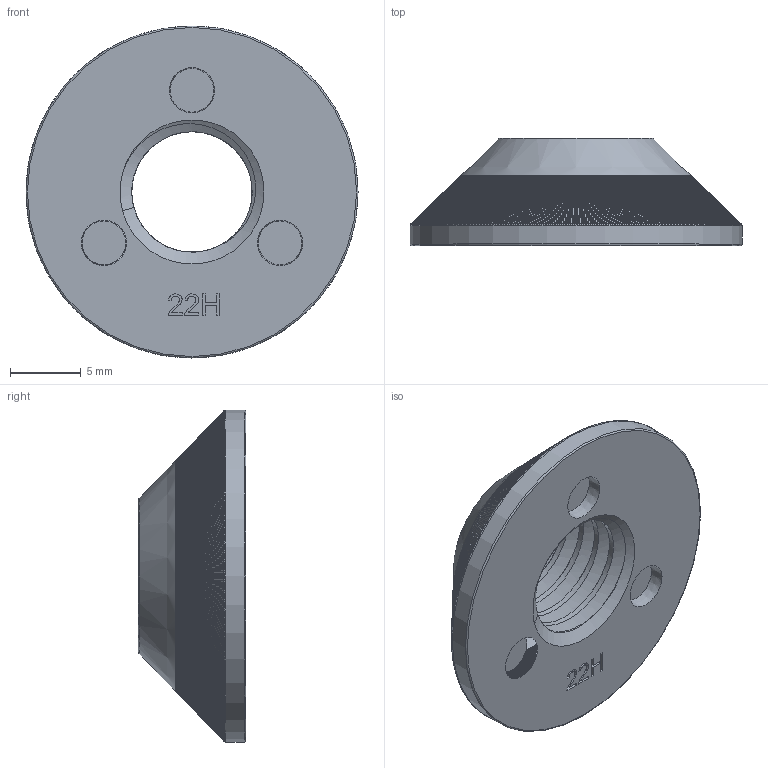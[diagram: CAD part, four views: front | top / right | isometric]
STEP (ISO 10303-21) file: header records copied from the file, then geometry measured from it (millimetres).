
FILE_DESCRIPTION(/* description */ (''),/* implementation_level */ '2;1');
FILE_NAME(/* name */ 'HEWI_CONU_M10L_PreFinal_1.step',/* time_stamp */ '2024-01-24T06:09:13+01:00',/* author */ (''),/* organization */ (''),/* preprocessor_version */ 'ST-DEVELOPER v20',/* originating_system */ 'Autodesk Translation Framework v12.14.0.127',/* authorisation */ '');
FILE_SCHEMA (('AUTOMOTIVE_DESIGN { 1 0 10303 214 3 1 1 }'));
Length unit declared in the file: millimetre
Products named in the file (1): HEWI_CONU_M10L
Bounding box: 23.5 x 7.6 x 23.5 mm (x, y, z)
Volume: 1586.2 mm3; surface area: 1419.2 mm2
Topology: 1 solids, 1 shells, 2936 faces, 9917 edges, 5850 vertices
Faces by surface type: bspline 2316, cylinder 583, plane 28, cone 6, torus 3
Full cylindrical faces by diameter (mm): 8.526 x4, 10.198 x4, 23.5 x1
Entity records: 218055 total; most frequent: CARTESIAN_POINT 158023, ORIENTED_EDGE 17556, EDGE_CURVE 8778, DIRECTION 7089, VERTEX_POINT 5850, B_SPLINE_CURVE_WITH_KNOTS 4661, AXIS2_PLACEMENT_3D 3489, EDGE_LOOP 2944
